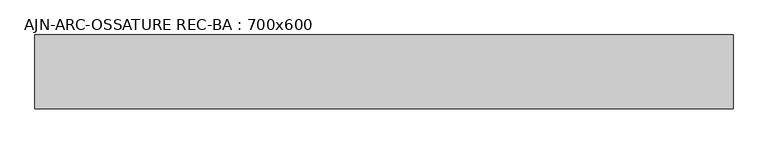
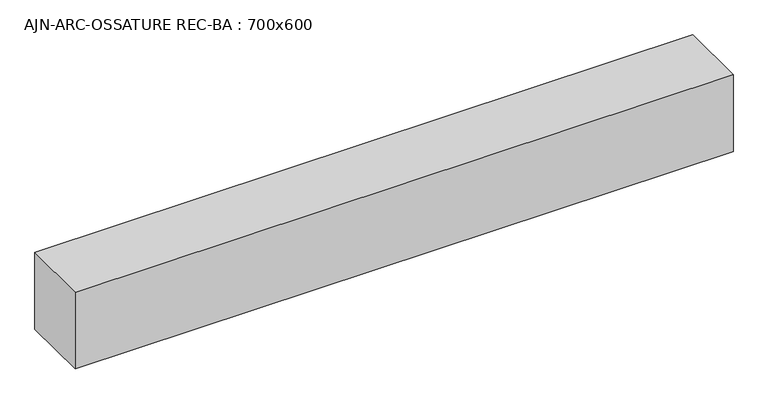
"""IFC4 building model written with IfcOpenShell, lengths in millimetres: beam geometry, AJN-ARC-OSSATURE REC-BA : 700x600."""

from ifc_helpers import new_model, si_unit, frame, origin, place, context, project, spatial, polyline, outline, extrude, source, transform, mapped, element, save


def ajn_arc_ossature_rec_ba_700x600_59e944a4(model_context):
    return source(origin(), model_context, "Body", "SweptSolid", [
        extrude(outline(polyline([(2687.3, 300.0), (2687.3, -300.0), (-2987.2999994, -300.0), (-2987.2999994, 300.0), (2687.3, 300.0)])), frame((0.0, 0.0, -350.0), z_axis=(0.0, 0.0, 1.0), x_axis=(1.0, 0.0, 0.0)), (0.0, 0.0, 1.0), 700.0),
    ])


if __name__ == "__main__":
    model = new_model("IFC4")
    model_context = context("Model", 3, world=origin())
    ifc_project = project(units=[si_unit("LENGTHUNIT", "METRE", prefix="MILLI")], contexts=[model_context])
    site = spatial("IfcSite", under=ifc_project)
    building = spatial("IfcBuilding", under=site)
    placement = place(None, origin())
    ajn_arc_ossature_rec_ba_700x600_shape = ajn_arc_ossature_rec_ba_700x600_59e944a4(model_context)
    element("IfcBeam", 1, ObjectType="AJN-ARC-OSSATURE REC-BA : 700x600", at=placement, inside=building, context=model_context, shape_type="MappedRepresentation", body=[
        mapped(ajn_arc_ossature_rec_ba_700x600_shape, transform((0.0, 0.0, 0.0), x_axis=(1.0, 0.0, 0.0), y_axis=(0.0, 1.0, 0.0), z_axis=(0.0, 0.0, 1.0))),
    ])
    save(model, "model.ifc")
